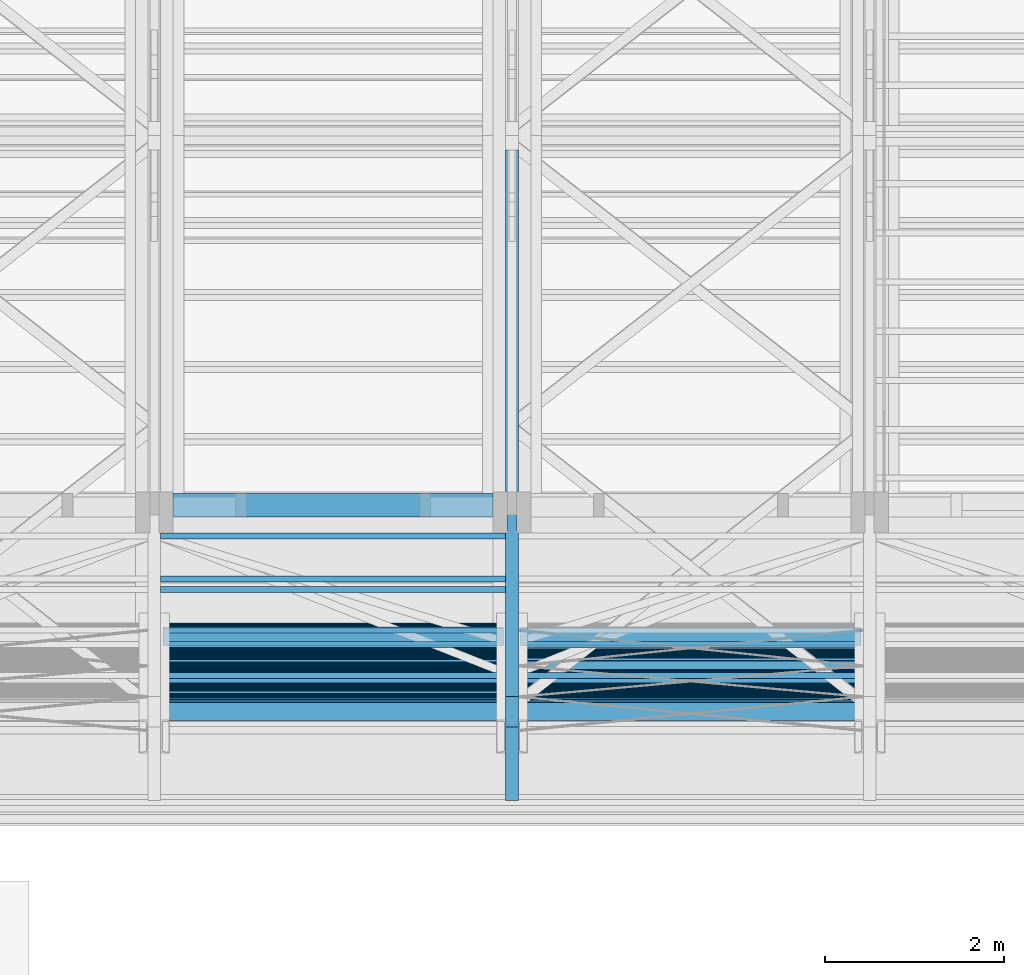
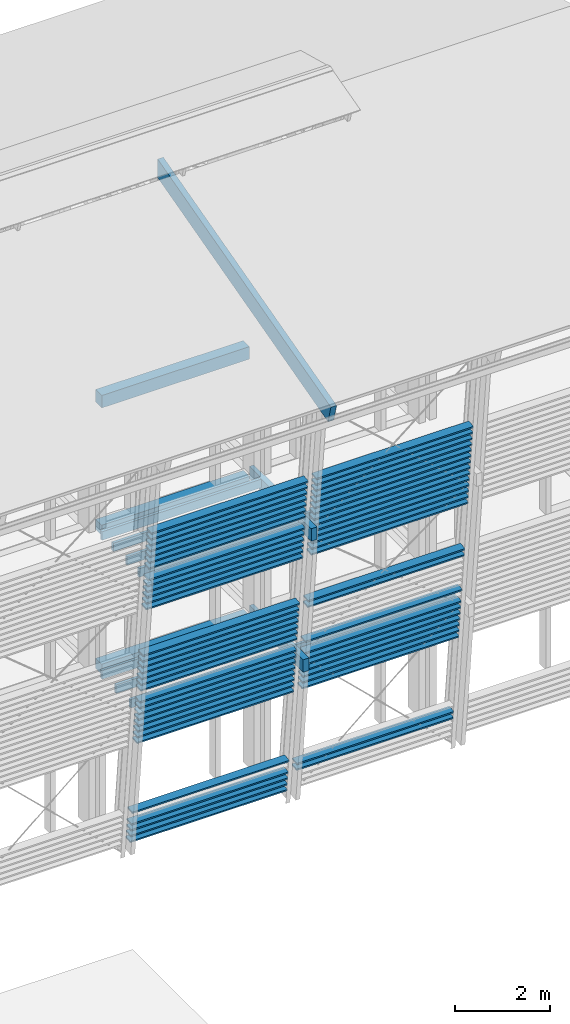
# One storey, part 19 of 48: 74 beams.
"""IFC2X3 building model written with IfcOpenShell, lengths in metres."""

from ifc_helpers import new_model, si_unit, direction, frame, origin_with_axes, place, context, subcontext, project, spatial, faceted_brep, material, element, save


model = new_model("IFC2X3")

# Units and contexts
model_context = context("Model", 3, precision=1e-06, world=origin_with_axes(), true_north=direction((0.0, 1.0, 0.0)))
body_context = subcontext(model_context, "Body", "Model", "MODEL_VIEW")
ifc_project = project(units=[si_unit("LENGTHUNIT", "METRE"), si_unit("AREAUNIT", "SQUARE_METRE"), si_unit("VOLUMEUNIT", "CUBIC_METRE"), si_unit("PLANEANGLEUNIT", "RADIAN")], contexts=[model_context])

# Site, building, storey
site_placement = place(None, origin_with_axes())
site = spatial("IfcSite", under=ifc_project, at=site_placement, CompositionType="ELEMENT")
building_placement = place(site_placement, origin_with_axes())
building = spatial("IfcBuilding", under=site, at=building_placement, Name="Building 1", CompositionType="ELEMENT")
storey_placement = place(building_placement, origin_with_axes())
storey = spatial("IfcBuildingStorey", under=building, at=storey_placement, Name="Storey 1", CompositionType="ELEMENT", Elevation=0.0)

# Beams
ifc_material_1 = material(Name="GL28h")
beam_1_placement = place(storey_placement, frame((61.5597437, -195.2446515, 7.699), z_axis=(0.0, 0.0, 1.0), x_axis=(1.0, 0.0, 0.0)))
element("IfcBeam", 1, at=beam_1_placement, inside=storey, material=ifc_material_1, Name="Solive", context=body_context, shape_type="Brep", body=[
    faceted_brep([(0.0, -0.035, -0.11), (0.0, -0.035, 0.11), (0.0, 0.035, 0.11), (0.0, 0.035, -0.11), (3.8599996, -0.035, 0.11), (3.8599996, 0.035, 0.11), (3.8599996, -0.035, -0.11), (3.8599996, 0.035, -0.11)], [[[0, 1, 2, 3]], [[2, 1, 4, 5]], [[1, 0, 6, 4]], [[0, 3, 7, 6]], [[3, 2, 5, 7]], [[7, 5, 4, 6]]]),
])
ifc_material_2 = material(Name="Moabi")
beam_2_placement = place(storey_placement, frame((65.3927441, -194.8097519, 1.0314097), z_axis=(0.0, 0.9945219, 0.1045285), x_axis=(-1.0, 0.0, 0.0)))
element("IfcBeam", 2, at=beam_2_placement, inside=storey, material=ifc_material_2, Name="garde corp", context=body_context, shape_type="Brep", body=[
    faceted_brep([(3.806, 0.02, -0.1), (3.806, -0.02, -0.1), (0.0, -0.02, -0.1), (0.0, 0.02, -0.1), (3.806, -0.02, 0.1), (0.0, -0.02, 0.1), (3.806, 0.02, 0.1), (0.0, 0.02, 0.1)], [[[0, 1, 2, 3]], [[1, 4, 5, 2]], [[4, 6, 7, 5]], [[6, 0, 3, 7]], [[1, 0, 6, 4]], [[7, 3, 2, 5]]]),
])
for number, where, z_axis, x_axis, name in (
    (3, (65.3927439, -195.177692, 4.5321268), (0.0, 0.9945219, 0.1045285), (-1.0, 0.0, 0.0), "garde corp"),
    (4, (61.3927439, -195.2278657, 5.0094973), (0.0, 0.9945219, 0.1045285), (-1.0, 0.0, 0.0), "garde corp"),
):
    element("IfcBeam", number, at=place(storey_placement, frame(where, z_axis=z_axis, x_axis=x_axis)), inside=storey, material=ifc_material_2, Name=name, context=body_context, shape_type="Brep", body=[
        faceted_brep([(3.8047069, 0.02, -0.1), (3.8047071, -0.02, -0.1), (0.0, -0.02, -0.1), (0.0, 0.02, -0.1), (3.8047069, -0.02, 0.1), (0.0, -0.02, 0.1), (3.8047071, 0.02, 0.1), (0.0, 0.02, 0.1)], [[[0, 1, 2, 3]], [[1, 4, 5, 2]], [[4, 6, 7, 5]], [[6, 0, 3, 7]], [[1, 0, 6, 4]], [[7, 3, 2, 5]]]),
    ])
beam_3_placement = place(storey_placement, frame((61.3927439, -195.0438956, 3.2591388), z_axis=(0.0, 0.9945219, 0.1045285), x_axis=(-1.0, 0.0, 0.0)))
element("IfcBeam", 5, at=beam_3_placement, inside=storey, material=ifc_material_2, Name="garde corp", context=body_context, shape_type="Brep", body=[
    faceted_brep([(3.8048051, 0.02, -0.1), (3.8048051, -0.02, -0.1), (0.0, -0.02, -0.1), (0.0, 0.02, -0.1), (3.8048051, -0.02, 0.1), (0.0, -0.02, 0.1), (3.8048051, 0.02, 0.1), (0.0, 0.02, 0.1)], [[[0, 1, 2, 3]], [[1, 4, 5, 2]], [[4, 6, 7, 5]], [[6, 0, 3, 7]], [[1, 0, 6, 4]], [[7, 3, 2, 5]]]),
])
for number, where, z_axis, x_axis, name in (
    (6, (61.3927441, -194.7763027, 0.7131627), (0.0, 0.9945219, 0.1045285), (-1.0, 0.0, 0.0), "garde corp"),
    (7, (61.3927441, -195.4285604, 6.9189793), (0.0, 0.9945219, 0.1045285), (-1.0, 0.0, 0.0), "garde corp"),
):
    element("IfcBeam", number, at=place(storey_placement, frame(where, z_axis=z_axis, x_axis=x_axis)), inside=storey, material=ifc_material_2, Name=name, context=body_context, shape_type="Brep", body=[
        faceted_brep([(3.806, 0.02, -0.1), (3.806, -0.02, -0.1), (0.0, -0.02, -0.1), (0.0, 0.02, -0.1), (3.806, -0.02, 0.1), (0.0, -0.02, 0.1), (3.806, 0.02, 0.1), (0.0, 0.02, 0.1)], [[[0, 1, 2, 3]], [[1, 4, 5, 2]], [[4, 6, 7, 5]], [[6, 0, 3, 7]], [[1, 0, 6, 4]], [[7, 3, 2, 5]]]),
    ])
beam_4_placement = place(storey_placement, frame((61.3927439, -195.2947639, 5.6459913), z_axis=(0.0, 0.9945219, 0.1045285), x_axis=(-1.0, 0.0, 0.0)))
element("IfcBeam", 8, at=beam_4_placement, inside=storey, material=ifc_material_2, Name="garde corp", context=body_context, shape_type="Brep", body=[
    faceted_brep([(3.8048055, 0.02, -0.1), (3.8048055, -0.02, -0.1), (0.0, -0.02, -0.1), (0.0, 0.02, -0.1), (3.8048055, -0.02, 0.1), (0.0, -0.02, 0.1), (3.8048055, 0.02, 0.1), (0.0, 0.02, 0.1)], [[[0, 1, 2, 3]], [[1, 4, 5, 2]], [[4, 6, 7, 5]], [[6, 0, 3, 7]], [[1, 0, 6, 4]], [[7, 3, 2, 5]]]),
])
beam_5_placement = place(storey_placement, frame((57.5597437, -195.2446515, 7.699), z_axis=(0.0, 0.0, 1.0), x_axis=(1.0, 0.0, 0.0)))
element("IfcBeam", 9, at=beam_5_placement, inside=storey, material=ifc_material_1, Name="Solive", context=body_context, shape_type="Brep", body=[
    faceted_brep([(0.0, -0.035, -0.11), (0.0, -0.035, 0.11), (0.0, 0.035, 0.11), (0.0, 0.035, -0.11), (3.8599996, -0.035, 0.11), (3.8599996, 0.035, 0.11), (3.8599996, -0.035, -0.11), (3.8599996, 0.035, -0.11)], [[[0, 1, 2, 3]], [[2, 1, 4, 5]], [[1, 0, 6, 4]], [[0, 3, 7, 6]], [[3, 2, 5, 7]], [[7, 5, 4, 6]]]),
])
beam_6_placement = place(storey_placement, frame((57.5597437, -193.6846515, 7.699), z_axis=(0.0, 0.0, 1.0), x_axis=(1.0, 0.0, 0.0)))
element("IfcBeam", 10, at=beam_6_placement, inside=storey, material=ifc_material_1, Name="Solive", context=body_context, shape_type="Brep", body=[
    faceted_brep([(3.86, 0.035, 0.11), (3.86, 0.035, -0.11), (0.0, 0.035, -0.11), (0.0, 0.035, 0.11), (3.86, -0.035, -0.11), (0.0, -0.035, -0.11), (3.86, -0.035, 0.11), (0.0, -0.035, 0.11)], [[[0, 1, 2, 3]], [[1, 4, 5, 2]], [[4, 6, 7, 5]], [[6, 0, 3, 7]], [[1, 0, 6, 4]], [[7, 3, 2, 5]]]),
])
for number, where, z_axis, x_axis, name in (
    (11, (65.3927441, -195.4620095, 7.2372263), (0.0, 0.9945219, 0.1045285), (-1.0, 0.0, 0.0), "garde corp"),
    (12, (61.3927441, -195.478734, 7.3963498), (0.0, 0.9945219, 0.1045285), (-1.0, 0.0, 0.0), "garde corp"),
):
    element("IfcBeam", number, at=place(storey_placement, frame(where, z_axis=z_axis, x_axis=x_axis)), inside=storey, material=ifc_material_2, Name=name, context=body_context, shape_type="Brep", body=[
        faceted_brep([(3.806, 0.02, -0.1), (3.806, -0.02, -0.1), (0.0, -0.02, -0.1), (0.0, 0.02, -0.1), (3.806, -0.02, 0.1), (0.0, -0.02, 0.1), (3.806, 0.02, 0.1), (0.0, 0.02, 0.1)], [[[0, 1, 2, 3]], [[1, 4, 5, 2]], [[4, 6, 7, 5]], [[6, 0, 3, 7]], [[1, 0, 6, 4]], [[7, 3, 2, 5]]]),
    ])
beam_7_placement = place(storey_placement, frame((61.4897437, -193.1896515, 4.089), z_axis=(0.0, 0.0, 1.0), x_axis=(0.0, -1.0, 0.0)))
element("IfcBeam", 13, at=beam_7_placement, inside=storey, material=ifc_material_1, Name="Sommier Coursive", context=body_context, shape_type="Brep", body=[
    faceted_brep([(0.0, 0.05, 0.16), (0.44, 0.05, 0.16), (0.44, 0.05, -0.16), (0.0, 0.05, -0.16), (0.44, 0.07, 0.16), (0.44, 0.07, -0.16), (0.0, -0.05, 0.16), (0.44, -0.05, 0.16), (0.44, -0.07, 0.16), (2.2900003, -0.07, 0.16), (2.2900003, 0.07, 0.16), (0.0, -0.05, -0.16), (0.44, -0.05, -0.16), (0.44, -0.07, -0.16), (2.2900003, 0.07, -0.16), (2.2900003, -0.07, -0.16)], [[[0, 1, 2, 3]], [[1, 4, 5, 2]], [[4, 1, 0, 6, 7, 8, 9, 10]], [[0, 3, 11, 6]], [[11, 12, 7, 6]], [[12, 13, 8, 7]], [[2, 5, 14, 15, 13, 12, 11, 3]], [[8, 13, 15, 9]], [[5, 4, 10, 14]], [[10, 9, 15, 14]]]),
])
for number, where, z_axis, x_axis, name in (
    (14, (65.3927441, -195.5289077, 7.8737203), (0.0, 0.9945219, 0.1045285), (-1.0, 0.0, 0.0), "garde corp"),
    (15, (65.3927437, -195.6459796, 8.9875849), (0.0, 0.9945219, 0.1045285), (-1.0, 0.0, 0.0), "garde corp"),
):
    element("IfcBeam", number, at=place(storey_placement, frame(where, z_axis=z_axis, x_axis=x_axis)), inside=storey, material=ifc_material_2, Name=name, context=body_context, shape_type="Brep", body=[
        faceted_brep([(3.806, 0.02, -0.1), (3.806, -0.02, -0.1), (0.0, -0.02, -0.1), (0.0, 0.02, -0.1), (3.806, -0.02, 0.1), (0.0, -0.02, 0.1), (3.806, 0.02, 0.1), (0.0, 0.02, 0.1)], [[[0, 1, 2, 3]], [[1, 4, 5, 2]], [[4, 6, 7, 5]], [[6, 0, 3, 7]], [[1, 0, 6, 4]], [[7, 3, 2, 5]]]),
    ])
beam_8_placement = place(storey_placement, frame((65.3927439, -195.2780394, 5.4868678), z_axis=(0.0, 0.9945219, 0.1045285), x_axis=(-1.0, 0.0, 0.0)))
element("IfcBeam", 16, at=beam_8_placement, inside=storey, material=ifc_material_2, Name="garde corp", context=body_context, shape_type="Brep", body=[
    faceted_brep([(3.8047069, 0.02, -0.1), (3.8047069, -0.02, -0.1), (0.0, -0.02, -0.1), (0.0, 0.02, -0.1), (3.8047069, -0.02, 0.1), (0.0, -0.02, 0.1), (3.8047071, 0.02, 0.1), (0.0, 0.02, 0.1)], [[[0, 1, 2, 3]], [[1, 4, 5, 2]], [[4, 6, 7, 5]], [[6, 0, 3, 7]], [[1, 0, 6, 4]], [[7, 3, 2, 5]]]),
])
for number, where, z_axis, x_axis, name in (
    (17, (61.3927441, -195.5958059, 8.5102144), (0.0, 0.9945219, 0.1045285), (-1.0, 0.0, 0.0), "garde corp"),
    (18, (61.3927441, -195.4954586, 7.5554733), (0.0, 0.9945219, 0.1045285), (-1.0, 0.0, 0.0), "garde corp"),
):
    element("IfcBeam", number, at=place(storey_placement, frame(where, z_axis=z_axis, x_axis=x_axis)), inside=storey, material=ifc_material_2, Name=name, context=body_context, shape_type="Brep", body=[
        faceted_brep([(3.806, 0.02, -0.1), (3.806, -0.02, -0.1), (0.0, -0.02, -0.1), (0.0, 0.02, -0.1), (3.806, -0.02, 0.1), (0.0, -0.02, 0.1), (3.806, 0.02, 0.1), (0.0, 0.02, 0.1)], [[[0, 1, 2, 3]], [[1, 4, 5, 2]], [[4, 6, 7, 5]], [[6, 0, 3, 7]], [[1, 0, 6, 4]], [[7, 3, 2, 5]]]),
    ])
for number, where, z_axis, x_axis in (
    (19, (57.5597437, -194.1646515, 7.699), (0.0, 0.0, 1.0), (1.0, 0.0, 0.0)),
    (20, (57.5597437, -194.7346515, 7.699), (0.0, 0.0, 1.0), (1.0, 0.0, 0.0)),
):
    element("IfcBeam", number, at=place(storey_placement, frame(where, z_axis=z_axis, x_axis=x_axis)), inside=storey, material=ifc_material_1, Name="Solive", context=body_context, shape_type="Brep", body=[
        faceted_brep([(3.86, 0.035, 0.11), (3.86, 0.035, -0.11), (0.0, 0.035, -0.11), (0.0, 0.035, 0.11), (3.86, -0.035, -0.11), (0.0, -0.035, -0.11), (3.86, -0.035, 0.11), (0.0, -0.035, 0.11)], [[[0, 1, 2, 3]], [[1, 4, 5, 2]], [[4, 6, 7, 5]], [[6, 0, 3, 7]], [[1, 0, 6, 4]], [[7, 3, 2, 5]]]),
    ])
beam_9_placement = place(storey_placement, frame((61.3927439, -195.2613148, 5.3277443), z_axis=(0.0, 0.9945219, 0.1045285), x_axis=(-1.0, 0.0, 0.0)))
element("IfcBeam", 21, at=beam_9_placement, inside=storey, material=ifc_material_2, Name="garde corp", context=body_context, shape_type="Brep", body=[
    faceted_brep([(3.8048055, 0.02, -0.1), (3.8048055, -0.02, -0.1), (0.0, -0.02, -0.1), (0.0, 0.02, -0.1), (3.8048055, -0.02, 0.1), (0.0, -0.02, 0.1), (3.8048055, 0.02, 0.1), (0.0, 0.02, 0.1)], [[[0, 1, 2, 3]], [[1, 4, 5, 2]], [[4, 6, 7, 5]], [[6, 0, 3, 7]], [[1, 0, 6, 4]], [[7, 3, 2, 5]]]),
])
beam_10_placement = place(storey_placement, frame((61.3927441, -194.7930273, 0.8722862), z_axis=(0.0, 0.9945219, 0.1045285), x_axis=(-1.0, 0.0, 0.0)))
element("IfcBeam", 22, at=beam_10_placement, inside=storey, material=ifc_material_2, Name="garde corp", context=body_context, shape_type="Brep", body=[
    faceted_brep([(3.806, 0.02, -0.1), (3.806, -0.02, -0.1), (0.0, -0.02, -0.1), (0.0, 0.02, -0.1), (3.806, -0.02, 0.1), (0.0, -0.02, 0.1), (3.806, 0.02, 0.1), (0.0, 0.02, 0.1)], [[[0, 1, 2, 3]], [[1, 4, 5, 2]], [[4, 6, 7, 5]], [[6, 0, 3, 7]], [[1, 0, 6, 4]], [[7, 3, 2, 5]]]),
])
beam_11_placement = place(storey_placement, frame((61.3927439, -195.1609675, 4.3730033), z_axis=(0.0, 0.9945219, 0.1045285), x_axis=(-1.0, 0.0, 0.0)))
element("IfcBeam", 23, at=beam_11_placement, inside=storey, material=ifc_material_2, Name="garde corp", context=body_context, shape_type="Brep", body=[
    faceted_brep([(3.8048051, 0.02, -0.1), (3.8048051, -0.02, -0.1), (0.0, -0.02, -0.1), (0.0, 0.02, -0.1), (3.8048051, -0.02, 0.1), (0.0, -0.02, 0.1), (3.8048051, 0.02, 0.1), (0.0, 0.02, 0.1)], [[[0, 1, 2, 3]], [[1, 4, 5, 2]], [[4, 6, 7, 5]], [[6, 0, 3, 7]], [[1, 0, 6, 4]], [[7, 3, 2, 5]]]),
])
for number, where, z_axis, x_axis, name in (
    (24, (65.3927441, -195.4452849, 7.0781028), (0.0, 0.9945219, 0.1045285), (-1.0, 0.0, 0.0), "garde corp"),
    (25, (61.3927441, -195.4452849, 7.0781028), (0.0, 0.9945219, 0.1045285), (-1.0, 0.0, 0.0), "garde corp"),
):
    element("IfcBeam", number, at=place(storey_placement, frame(where, z_axis=z_axis, x_axis=x_axis)), inside=storey, material=ifc_material_2, Name=name, context=body_context, shape_type="Brep", body=[
        faceted_brep([(3.806, 0.02, -0.1), (3.806, -0.02, -0.1), (0.0, -0.02, -0.1), (0.0, 0.02, -0.1), (3.806, -0.02, 0.1), (0.0, -0.02, 0.1), (3.806, 0.02, 0.1), (0.0, 0.02, 0.1)], [[[0, 1, 2, 3]], [[1, 4, 5, 2]], [[4, 6, 7, 5]], [[6, 0, 3, 7]], [[1, 0, 6, 4]], [[7, 3, 2, 5]]]),
    ])
beam_12_placement = place(storey_placement, frame((57.5597437, -194.898689, 4.139), z_axis=(0.0, 0.0, 1.0), x_axis=(1.0, 0.0, 0.0)))
element("IfcBeam", 26, at=beam_12_placement, inside=storey, material=ifc_material_1, Name="Solive", context=body_context, shape_type="Brep", body=[
    faceted_brep([(3.86, 0.035, 0.11), (3.86, 0.035, -0.11), (0.0, 0.035, -0.11), (0.0, 0.035, 0.11), (3.86, -0.035, -0.11), (0.0, -0.035, -0.11), (3.86, -0.035, 0.11), (0.0, -0.035, 0.11)], [[[0, 1, 2, 3]], [[1, 4, 5, 2]], [[4, 6, 7, 5]], [[6, 0, 3, 7]], [[1, 0, 6, 4]], [[7, 3, 2, 5]]]),
])
beam_13_placement = place(storey_placement, frame((61.4897437, -196.5806087, 11.197686), z_axis=(0.0, -0.258819, 0.9659258), x_axis=(0.0, 0.9659258, 0.258819)))
element("IfcBeam", 27, at=beam_13_placement, inside=storey, material=ifc_material_1, Name="Arbalétrier", context=body_context, shape_type="Brep", body=[
    faceted_brep([(7.4053414, 0.07, -0.23), (7.5285981, 0.07, 0.23), (7.5285981, -0.07, 0.23), (7.4053414, -0.07, -0.23), (0.0, 0.07, 0.23), (0.0, -0.07, 0.23), (0.0, 0.07, -0.23), (0.0, -0.07, -0.23)], [[[0, 1, 2, 3]], [[2, 1, 4, 5]], [[1, 0, 6, 4]], [[0, 3, 7, 6]], [[3, 2, 5, 7]], [[6, 7, 5, 4]]]),
])
beam_14_placement = place(storey_placement, frame((65.3927439, -195.0438956, 3.2591388), z_axis=(0.0, 0.9945219, 0.1045285), x_axis=(-1.0, 0.0, 0.0)))
element("IfcBeam", 28, at=beam_14_placement, inside=storey, material=ifc_material_2, Name="garde corp", context=body_context, shape_type="Brep", body=[
    faceted_brep([(3.8048051, 0.02, -0.1), (3.8048051, -0.02, -0.1), (0.0, -0.02, -0.1), (0.0, 0.02, -0.1), (3.8048051, -0.02, 0.1), (0.0, -0.02, 0.1), (3.8048051, 0.02, 0.1), (0.0, 0.02, 0.1)], [[[0, 1, 2, 3]], [[1, 4, 5, 2]], [[4, 6, 7, 5]], [[6, 0, 3, 7]], [[1, 0, 6, 4]], [[7, 3, 2, 5]]]),
])
for number, where, z_axis, x_axis, name in (
    (29, (61.3927437, -195.6125305, 8.6693379), (0.0, 0.9945219, 0.1045285), (-1.0, 0.0, 0.0), "garde corp"),
    (30, (65.3927441, -194.8264764, 1.1905332), (0.0, 0.9945219, 0.1045285), (-1.0, 0.0, 0.0), "garde corp"),
):
    element("IfcBeam", number, at=place(storey_placement, frame(where, z_axis=z_axis, x_axis=x_axis)), inside=storey, material=ifc_material_2, Name=name, context=body_context, shape_type="Brep", body=[
        faceted_brep([(3.806, 0.02, -0.1), (3.806, -0.02, -0.1), (0.0, -0.02, -0.1), (0.0, 0.02, -0.1), (3.806, -0.02, 0.1), (0.0, -0.02, 0.1), (3.806, 0.02, 0.1), (0.0, 0.02, 0.1)], [[[0, 1, 2, 3]], [[1, 4, 5, 2]], [[4, 6, 7, 5]], [[6, 0, 3, 7]], [[1, 0, 6, 4]], [[7, 3, 2, 5]]]),
    ])
beam_15_placement = place(storey_placement, frame((61.4897437, -193.1896515, 7.649), z_axis=(0.0, 0.0, 1.0), x_axis=(0.0, -1.0, 0.0)))
element("IfcBeam", 31, at=beam_15_placement, inside=storey, material=ifc_material_1, Name="Sommier Coursive", context=body_context, shape_type="Brep", body=[
    faceted_brep([(0.0, -0.05, -0.16), (0.44, -0.05, -0.16), (0.44, -0.05, 0.16), (0.0, -0.05, 0.16), (0.44, -0.07, -0.16), (0.44, -0.07, 0.16), (0.0, 0.05, 0.16), (0.0, 0.05, -0.16), (2.6285375, -0.07, 0.16), (2.6285375, 0.07, 0.16), (0.44, 0.07, 0.16), (0.44, 0.05, 0.16), (0.44, 0.05, -0.16), (0.44, 0.07, -0.16), (2.6285375, -0.07, -0.16), (2.6285375, 0.07, -0.16)], [[[0, 1, 2, 3]], [[1, 4, 5, 2]], [[0, 3, 6, 7]], [[3, 2, 5, 8, 9, 10, 11, 6]], [[6, 11, 12, 7]], [[11, 10, 13, 12]], [[5, 4, 14, 8]], [[1, 0, 7, 12, 13, 15, 14, 4]], [[13, 10, 9, 15]], [[9, 8, 14, 15]]]),
])
beam_16_placement = place(storey_placement, frame((65.3927437, -195.6125305, 8.6693379), z_axis=(0.0, 0.9945219, 0.1045285), x_axis=(-1.0, 0.0, 0.0)))
element("IfcBeam", 32, at=beam_16_placement, inside=storey, material=ifc_material_2, Name="garde corp", context=body_context, shape_type="Brep", body=[
    faceted_brep([(3.806, 0.02, -0.1), (3.806, -0.02, -0.1), (0.0, -0.02, -0.1), (0.0, 0.02, -0.1), (3.806, -0.02, 0.1), (0.0, -0.02, 0.1), (3.806, 0.02, 0.1), (0.0, 0.02, 0.1)], [[[0, 1, 2, 3]], [[1, 4, 5, 2]], [[4, 6, 7, 5]], [[6, 0, 3, 7]], [[1, 0, 6, 4]], [[7, 3, 2, 5]]]),
])
beam_17_placement = place(storey_placement, frame((65.3927439, -195.2947639, 5.6459913), z_axis=(0.0, 0.9945219, 0.1045285), x_axis=(-1.0, 0.0, 0.0)))
element("IfcBeam", 33, at=beam_17_placement, inside=storey, material=ifc_material_2, Name="garde corp", context=body_context, shape_type="Brep", body=[
    faceted_brep([(3.8048055, 0.02, -0.1), (3.8048055, -0.02, -0.1), (0.0, -0.02, -0.1), (0.0, 0.02, -0.1), (3.8048055, -0.02, 0.1), (0.0, -0.02, 0.1), (3.8048055, 0.02, 0.1), (0.0, 0.02, 0.1)], [[[0, 1, 2, 3]], [[1, 4, 5, 2]], [[4, 6, 7, 5]], [[6, 0, 3, 7]], [[1, 0, 6, 4]], [[7, 3, 2, 5]]]),
])
beam_18_placement = place(storey_placement, frame((65.3927439, -195.1275184, 4.0547563), z_axis=(0.0, 0.9945219, 0.1045285), x_axis=(-1.0, 0.0, 0.0)))
element("IfcBeam", 34, at=beam_18_placement, inside=storey, material=ifc_material_2, Name="garde corp", context=body_context, shape_type="Brep", body=[
    faceted_brep([(3.8048051, 0.02, -0.1), (3.8048051, -0.02, -0.1), (0.0, -0.02, -0.1), (0.0, 0.02, -0.1), (3.8048051, -0.02, 0.1), (0.0, -0.02, 0.1), (3.8048051, 0.02, 0.1), (0.0, 0.02, 0.1)], [[[0, 1, 2, 3]], [[1, 4, 5, 2]], [[4, 6, 7, 5]], [[6, 0, 3, 7]], [[1, 0, 6, 4]], [[7, 3, 2, 5]]]),
])
beam_19_placement = place(storey_placement, frame((57.6997437, -193.3396515, 4.085), z_axis=(0.0, 0.0, 1.0), x_axis=(1.0, 0.0, 0.0)))
element("IfcBeam", 35, at=beam_19_placement, inside=storey, material=ifc_material_1, Name="Buton", context=body_context, shape_type="Brep", body=[
    faceted_brep([(0.0, 0.13, 0.13), (0.0, -0.13, 0.13), (3.58, -0.13, 0.13), (3.58, 0.13, 0.13), (0.0, -0.13, -0.13), (3.58, -0.13, -0.13), (0.0, 0.13, -0.13), (3.58, 0.13, -0.13)], [[[0, 1, 2, 3]], [[2, 1, 4, 5]], [[1, 0, 6, 4]], [[5, 4, 6, 7]], [[0, 3, 7, 6]], [[3, 2, 5, 7]]]),
])
beam_20_placement = place(storey_placement, frame((65.3927439, -195.0940693, 3.7365093), z_axis=(0.0, 0.9945219, 0.1045285), x_axis=(-1.0, 0.0, 0.0)))
element("IfcBeam", 36, at=beam_20_placement, inside=storey, material=ifc_material_2, Name="garde corp", context=body_context, shape_type="Brep", body=[
    faceted_brep([(3.8047069, 0.02, -0.1), (3.8047071, -0.02, -0.1), (0.0, -0.02, -0.1), (0.0, 0.02, -0.1), (3.8047071, -0.02, 0.1), (0.0, -0.02, 0.1), (3.8047071, 0.02, 0.1), (0.0, 0.02, 0.1)], [[[0, 1, 2, 3]], [[1, 4, 5, 2]], [[4, 6, 7, 5]], [[6, 0, 3, 7]], [[1, 0, 6, 4]], [[7, 3, 2, 5]]]),
])
beam_21_placement = place(storey_placement, frame((57.6997437, -193.3396515, 10.94), z_axis=(0.0, 0.0, 1.0), x_axis=(1.0, 0.0, 0.0)))
element("IfcBeam", 37, at=beam_21_placement, inside=storey, material=ifc_material_1, Name="Buton", context=body_context, shape_type="Brep", body=[
    faceted_brep([(0.0, 0.13, 0.16), (0.0, -0.13, 0.16), (3.58, -0.13, 0.16), (3.58, 0.13, 0.16), (0.0, -0.13, -0.16), (3.58, -0.13, -0.16), (0.0, 0.13, -0.16), (3.58, 0.13, -0.16)], [[[0, 1, 2, 3]], [[2, 1, 4, 5]], [[1, 0, 6, 4]], [[5, 4, 6, 7]], [[3, 2, 5, 7]], [[0, 3, 7, 6]]]),
])
beam_22_placement = place(storey_placement, frame((57.6997437, -193.3396515, 7.645), z_axis=(0.0, 0.0, 1.0), x_axis=(1.0, 0.0, 0.0)))
element("IfcBeam", 38, at=beam_22_placement, inside=storey, material=ifc_material_1, Name="Buton", context=body_context, shape_type="Brep", body=[
    faceted_brep([(0.0, 0.13, 0.13), (0.0, -0.13, 0.13), (3.58, -0.13, 0.13), (3.58, 0.13, 0.13), (0.0, -0.13, -0.13), (3.58, -0.13, -0.13), (0.0, 0.13, -0.13), (3.58, 0.13, -0.13)], [[[0, 1, 2, 3]], [[2, 1, 4, 5]], [[1, 0, 6, 4]], [[5, 4, 6, 7]], [[0, 3, 7, 6]], [[3, 2, 5, 7]]]),
])
beam_23_placement = place(storey_placement, frame((65.3927441, -195.5623568, 8.1919674), z_axis=(0.0, 0.9945219, 0.1045285), x_axis=(-1.0, 0.0, 0.0)))
element("IfcBeam", 39, at=beam_23_placement, inside=storey, material=ifc_material_2, Name="garde corp", context=body_context, shape_type="Brep", body=[
    faceted_brep([(3.806, 0.02, -0.1), (3.806, -0.02, -0.1), (0.0, -0.02, -0.1), (0.0, 0.02, -0.1), (3.806, -0.02, 0.1), (0.0, -0.02, 0.1), (3.806, 0.02, 0.1), (0.0, 0.02, 0.1)], [[[0, 1, 2, 3]], [[1, 4, 5, 2]], [[4, 6, 7, 5]], [[6, 0, 3, 7]], [[1, 0, 6, 4]], [[7, 3, 2, 5]]]),
])
beam_24_placement = place(storey_placement, frame((61.3927439, -195.0606202, 3.4182623), z_axis=(0.0, 0.9945219, 0.1045285), x_axis=(-1.0, 0.0, 0.0)))
element("IfcBeam", 40, at=beam_24_placement, inside=storey, material=ifc_material_2, Name="garde corp", context=body_context, shape_type="Brep", body=[
    faceted_brep([(3.8047069, 0.02, -0.1), (3.8047069, -0.02, -0.1), (0.0, -0.02, -0.1), (0.0, 0.02, -0.1), (3.8047069, -0.02, 0.1), (0.0, -0.02, 0.1), (3.8047071, 0.02, 0.1), (0.0, 0.02, 0.1)], [[[0, 1, 2, 3]], [[1, 4, 5, 2]], [[4, 6, 7, 5]], [[6, 0, 3, 7]], [[1, 0, 6, 4]], [[7, 3, 2, 5]]]),
])
beam_25_placement = place(storey_placement, frame((61.3927439, -195.1442429, 4.2138798), z_axis=(0.0, 0.9945219, 0.1045285), x_axis=(-1.0, 0.0, 0.0)))
element("IfcBeam", 41, at=beam_25_placement, inside=storey, material=ifc_material_2, Name="garde corp", context=body_context, shape_type="Brep", body=[
    faceted_brep([(3.8048051, 0.02, -0.1), (3.8048051, -0.02, -0.1), (0.0, -0.02, -0.1), (0.0, 0.02, -0.1), (3.8048051, -0.02, 0.1), (0.0, -0.02, 0.1), (3.8048051, 0.02, 0.1), (0.0, 0.02, 0.1)], [[[0, 1, 2, 3]], [[1, 4, 5, 2]], [[4, 6, 7, 5]], [[6, 0, 3, 7]], [[1, 0, 6, 4]], [[7, 3, 2, 5]]]),
])
for number, where, z_axis, x_axis, name in (
    (42, (65.3927441, -195.629255, 8.8284614), (0.0, 0.9945219, 0.1045285), (-1.0, 0.0, 0.0), "garde corp"),
    (43, (65.3927441, -195.5958059, 8.5102144), (0.0, 0.9945219, 0.1045285), (-1.0, 0.0, 0.0), "garde corp"),
):
    element("IfcBeam", number, at=place(storey_placement, frame(where, z_axis=z_axis, x_axis=x_axis)), inside=storey, material=ifc_material_2, Name=name, context=body_context, shape_type="Brep", body=[
        faceted_brep([(3.806, 0.02, -0.1), (3.806, -0.02, -0.1), (0.0, -0.02, -0.1), (0.0, 0.02, -0.1), (3.806, -0.02, 0.1), (0.0, -0.02, 0.1), (3.806, 0.02, 0.1), (0.0, 0.02, 0.1)], [[[0, 1, 2, 3]], [[1, 4, 5, 2]], [[4, 6, 7, 5]], [[6, 0, 3, 7]], [[1, 0, 6, 4]], [[7, 3, 2, 5]]]),
    ])
beam_26_placement = place(storey_placement, frame((57.5597437, -194.2816702, 4.139), z_axis=(0.0, 0.0, 1.0), x_axis=(1.0, 0.0, 0.0)))
element("IfcBeam", 44, at=beam_26_placement, inside=storey, material=ifc_material_1, Name="Solive", context=body_context, shape_type="Brep", body=[
    faceted_brep([(3.86, 0.035, 0.11), (3.86, 0.035, -0.11), (0.0, 0.035, -0.11), (0.0, 0.035, 0.11), (3.86, -0.035, -0.11), (0.0, -0.035, -0.11), (3.86, -0.035, 0.11), (0.0, -0.035, 0.11)], [[[0, 1, 2, 3]], [[1, 4, 5, 2]], [[4, 6, 7, 5]], [[6, 0, 3, 7]], [[1, 0, 6, 4]], [[7, 3, 2, 5]]]),
])
beam_27_placement = place(storey_placement, frame((65.3927439, -195.0606202, 3.4182623), z_axis=(0.0, 0.9945219, 0.1045285), x_axis=(-1.0, 0.0, 0.0)))
element("IfcBeam", 45, at=beam_27_placement, inside=storey, material=ifc_material_2, Name="garde corp", context=body_context, shape_type="Brep", body=[
    faceted_brep([(3.8047069, 0.02, -0.1), (3.8047069, -0.02, -0.1), (0.0, -0.02, -0.1), (0.0, 0.02, -0.1), (3.8047069, -0.02, 0.1), (0.0, -0.02, 0.1), (3.8047071, 0.02, 0.1), (0.0, 0.02, 0.1)], [[[0, 1, 2, 3]], [[1, 4, 5, 2]], [[4, 6, 7, 5]], [[6, 0, 3, 7]], [[1, 0, 6, 4]], [[7, 3, 2, 5]]]),
])
beam_28_placement = place(storey_placement, frame((61.3927439, -195.2111412, 4.8503738), z_axis=(0.0, 0.9945219, 0.1045285), x_axis=(-1.0, 0.0, 0.0)))
element("IfcBeam", 46, at=beam_28_placement, inside=storey, material=ifc_material_2, Name="garde corp", context=body_context, shape_type="Brep", body=[
    faceted_brep([(3.8048055, 0.02, -0.1), (3.8048055, -0.02, -0.1), (0.0, -0.02, -0.1), (0.0, 0.02, -0.1), (3.8048055, -0.02, 0.1), (0.0, -0.02, 0.1), (3.8048055, 0.02, 0.1), (0.0, 0.02, 0.1)], [[[0, 1, 2, 3]], [[1, 4, 5, 2]], [[4, 6, 7, 5]], [[6, 0, 3, 7]], [[1, 0, 6, 4]], [[7, 3, 2, 5]]]),
])
beam_29_placement = place(storey_placement, frame((65.3927441, -195.4285604, 6.9189793), z_axis=(0.0, 0.9945219, 0.1045285), x_axis=(-1.0, 0.0, 0.0)))
element("IfcBeam", 47, at=beam_29_placement, inside=storey, material=ifc_material_2, Name="garde corp", context=body_context, shape_type="Brep", body=[
    faceted_brep([(3.806, 0.02, -0.1), (3.806, -0.02, -0.1), (0.0, -0.02, -0.1), (0.0, 0.02, -0.1), (3.806, -0.02, 0.1), (0.0, -0.02, 0.1), (3.806, 0.02, 0.1), (0.0, 0.02, 0.1)], [[[0, 1, 2, 3]], [[1, 4, 5, 2]], [[4, 6, 7, 5]], [[6, 0, 3, 7]], [[1, 0, 6, 4]], [[7, 3, 2, 5]]]),
])
for number, where, z_axis, x_axis in (
    (48, (61.5597437, -194.898689, 4.139), (0.0, 0.0, 1.0), (1.0, 0.0, 0.0)),
    (49, (57.5597437, -193.6846515, 4.139), (0.0, 0.0, 1.0), (1.0, 0.0, 0.0)),
):
    element("IfcBeam", number, at=place(storey_placement, frame(where, z_axis=z_axis, x_axis=x_axis)), inside=storey, material=ifc_material_1, Name="Solive", context=body_context, shape_type="Brep", body=[
        faceted_brep([(3.86, 0.035, 0.11), (3.86, 0.035, -0.11), (0.0, 0.035, -0.11), (0.0, 0.035, 0.11), (3.86, -0.035, -0.11), (0.0, -0.035, -0.11), (3.86, -0.035, 0.11), (0.0, -0.035, 0.11)], [[[0, 1, 2, 3]], [[1, 4, 5, 2]], [[4, 6, 7, 5]], [[6, 0, 3, 7]], [[1, 0, 6, 4]], [[7, 3, 2, 5]]]),
    ])
for number, where, z_axis, x_axis, name in (
    (50, (61.3927439, -195.1944166, 4.6912503), (0.0, 0.9945219, 0.1045285), (-1.0, 0.0, 0.0), "garde corp"),
    (51, (61.3927439, -195.1107938, 3.8956328), (0.0, 0.9945219, 0.1045285), (-1.0, 0.0, 0.0), "garde corp"),
):
    element("IfcBeam", number, at=place(storey_placement, frame(where, z_axis=z_axis, x_axis=x_axis)), inside=storey, material=ifc_material_2, Name=name, context=body_context, shape_type="Brep", body=[
        faceted_brep([(3.8047069, 0.02, -0.1), (3.8047071, -0.02, -0.1), (0.0, -0.02, -0.1), (0.0, 0.02, -0.1), (3.8047071, -0.02, 0.1), (0.0, -0.02, 0.1), (3.8047071, 0.02, 0.1), (0.0, 0.02, 0.1)], [[[0, 1, 2, 3]], [[1, 4, 5, 2]], [[4, 6, 7, 5]], [[6, 0, 3, 7]], [[1, 0, 6, 4]], [[7, 3, 2, 5]]]),
    ])
beam_30_placement = place(storey_placement, frame((61.3927441, -194.843201, 1.3496567), z_axis=(0.0, 0.9945219, 0.1045285), x_axis=(-1.0, 0.0, 0.0)))
element("IfcBeam", 52, at=beam_30_placement, inside=storey, material=ifc_material_2, Name="garde corp", context=body_context, shape_type="Brep", body=[
    faceted_brep([(3.806, 0.02, -0.1), (3.806, -0.02, -0.1), (0.0, -0.02, -0.1), (0.0, 0.02, -0.1), (3.806, -0.02, 0.1), (0.0, -0.02, 0.1), (3.806, 0.02, 0.1), (0.0, 0.02, 0.1)], [[[0, 1, 2, 3]], [[1, 4, 5, 2]], [[4, 6, 7, 5]], [[6, 0, 3, 7]], [[1, 0, 6, 4]], [[7, 3, 2, 5]]]),
])
beam_31_placement = place(storey_placement, frame((61.3927439, -195.0773447, 3.5773858), z_axis=(0.0, 0.9945219, 0.1045285), x_axis=(-1.0, 0.0, 0.0)))
element("IfcBeam", 53, at=beam_31_placement, inside=storey, material=ifc_material_2, Name="garde corp", context=body_context, shape_type="Brep", body=[
    faceted_brep([(3.8047071, 0.02, -0.1), (3.8047071, -0.02, -0.1), (0.0, -0.02, -0.1), (0.0, 0.02, -0.1), (3.8047071, -0.02, 0.1), (0.0, -0.02, 0.1), (3.8047071, 0.02, 0.1), (0.0, 0.02, 0.1)], [[[0, 1, 2, 3]], [[1, 4, 5, 2]], [[4, 6, 7, 5]], [[6, 0, 3, 7]], [[1, 0, 6, 4]], [[7, 3, 2, 5]]]),
])
beam_32_placement = place(storey_placement, frame((61.3927439, -195.2445903, 5.1686208), z_axis=(0.0, 0.9945219, 0.1045285), x_axis=(-1.0, 0.0, 0.0)))
element("IfcBeam", 54, at=beam_32_placement, inside=storey, material=ifc_material_2, Name="garde corp", context=body_context, shape_type="Brep", body=[
    faceted_brep([(3.8048055, 0.02, -0.1), (3.8048055, -0.02, -0.1), (0.0, -0.02, -0.1), (0.0, 0.02, -0.1), (3.8048055, -0.02, 0.1), (0.0, -0.02, 0.1), (3.8048055, 0.02, 0.1), (0.0, 0.02, 0.1)], [[[0, 1, 2, 3]], [[1, 4, 5, 2]], [[4, 6, 7, 5]], [[6, 0, 3, 7]], [[1, 0, 6, 4]], [[7, 3, 2, 5]]]),
])
for number, where, z_axis, x_axis, name in (
    (55, (61.3927441, -195.5121831, 7.7145968), (0.0, 0.9945219, 0.1045285), (-1.0, 0.0, 0.0), "garde corp"),
    (56, (61.3927441, -195.5790813, 8.3510909), (0.0, 0.9945219, 0.1045285), (-1.0, 0.0, 0.0), "garde corp"),
    (57, (61.3927441, -194.7595782, 0.5540392), (0.0, 0.9945219, 0.1045285), (-1.0, 0.0, 0.0), "garde corp"),
    (58, (65.3927441, -195.4954586, 7.5554733), (0.0, 0.9945219, 0.1045285), (-1.0, 0.0, 0.0), "garde corp"),
):
    element("IfcBeam", number, at=place(storey_placement, frame(where, z_axis=z_axis, x_axis=x_axis)), inside=storey, material=ifc_material_2, Name=name, context=body_context, shape_type="Brep", body=[
        faceted_brep([(3.806, 0.02, -0.1), (3.806, -0.02, -0.1), (0.0, -0.02, -0.1), (0.0, 0.02, -0.1), (3.806, -0.02, 0.1), (0.0, -0.02, 0.1), (3.806, 0.02, 0.1), (0.0, 0.02, 0.1)], [[[0, 1, 2, 3]], [[1, 4, 5, 2]], [[4, 6, 7, 5]], [[6, 0, 3, 7]], [[1, 0, 6, 4]], [[7, 3, 2, 5]]]),
    ])
beam_33_placement = place(storey_placement, frame((61.3927439, -195.0940693, 3.7365093), z_axis=(0.0, 0.9945219, 0.1045285), x_axis=(-1.0, 0.0, 0.0)))
element("IfcBeam", 59, at=beam_33_placement, inside=storey, material=ifc_material_2, Name="garde corp", context=body_context, shape_type="Brep", body=[
    faceted_brep([(3.8047069, 0.02, -0.1), (3.8047071, -0.02, -0.1), (0.0, -0.02, -0.1), (0.0, 0.02, -0.1), (3.8047071, -0.02, 0.1), (0.0, -0.02, 0.1), (3.8047071, 0.02, 0.1), (0.0, 0.02, 0.1)], [[[0, 1, 2, 3]], [[1, 4, 5, 2]], [[4, 6, 7, 5]], [[6, 0, 3, 7]], [[1, 0, 6, 4]], [[7, 3, 2, 5]]]),
])
for number, where, z_axis, x_axis, name in (
    (60, (61.3927437, -195.5456322, 8.0328439), (0.0, 0.9945219, 0.1045285), (-1.0, 0.0, 0.0), "garde corp"),
    (61, (61.3927441, -195.4620095, 7.2372263), (0.0, 0.9945219, 0.1045285), (-1.0, 0.0, 0.0), "garde corp"),
    (62, (65.3927437, -195.5456322, 8.0328439), (0.0, 0.9945219, 0.1045285), (-1.0, 0.0, 0.0), "garde corp"),
    (63, (61.3927437, -195.6459796, 8.9875849), (0.0, 0.9945219, 0.1045285), (-1.0, 0.0, 0.0), "garde corp"),
    (64, (65.3927441, -195.5121831, 7.7145968), (0.0, 0.9945219, 0.1045285), (-1.0, 0.0, 0.0), "garde corp"),
    (65, (65.3927441, -195.478734, 7.3963498), (0.0, 0.9945219, 0.1045285), (-1.0, 0.0, 0.0), "garde corp"),
    (66, (61.3927441, -194.8097519, 1.0314097), (0.0, 0.9945219, 0.1045285), (-1.0, 0.0, 0.0), "garde corp"),
    (67, (61.3927441, -195.629255, 8.8284614), (0.0, 0.9945219, 0.1045285), (-1.0, 0.0, 0.0), "garde corp"),
):
    element("IfcBeam", number, at=place(storey_placement, frame(where, z_axis=z_axis, x_axis=x_axis)), inside=storey, material=ifc_material_2, Name=name, context=body_context, shape_type="Brep", body=[
        faceted_brep([(3.806, 0.02, -0.1), (3.806, -0.02, -0.1), (0.0, -0.02, -0.1), (0.0, 0.02, -0.1), (3.806, -0.02, 0.1), (0.0, -0.02, 0.1), (3.806, 0.02, 0.1), (0.0, 0.02, 0.1)], [[[0, 1, 2, 3]], [[1, 4, 5, 2]], [[4, 6, 7, 5]], [[6, 0, 3, 7]], [[1, 0, 6, 4]], [[7, 3, 2, 5]]]),
    ])
beam_34_placement = place(storey_placement, frame((61.3927439, -195.2780394, 5.4868678), z_axis=(0.0, 0.9945219, 0.1045285), x_axis=(-1.0, 0.0, 0.0)))
element("IfcBeam", 68, at=beam_34_placement, inside=storey, material=ifc_material_2, Name="garde corp", context=body_context, shape_type="Brep", body=[
    faceted_brep([(3.8047069, 0.02, -0.1), (3.8047069, -0.02, -0.1), (0.0, -0.02, -0.1), (0.0, 0.02, -0.1), (3.8047069, -0.02, 0.1), (0.0, -0.02, 0.1), (3.8047071, 0.02, 0.1), (0.0, 0.02, 0.1)], [[[0, 1, 2, 3]], [[1, 4, 5, 2]], [[4, 6, 7, 5]], [[6, 0, 3, 7]], [[1, 0, 6, 4]], [[7, 3, 2, 5]]]),
])
beam_35_placement = place(storey_placement, frame((61.3927441, -195.5623568, 8.1919674), z_axis=(0.0, 0.9945219, 0.1045285), x_axis=(-1.0, 0.0, 0.0)))
element("IfcBeam", 69, at=beam_35_placement, inside=storey, material=ifc_material_2, Name="garde corp", context=body_context, shape_type="Brep", body=[
    faceted_brep([(3.806, 0.02, -0.1), (3.806, -0.02, -0.1), (0.0, -0.02, -0.1), (0.0, 0.02, -0.1), (3.806, -0.02, 0.1), (0.0, -0.02, 0.1), (3.806, 0.02, 0.1), (0.0, 0.02, 0.1)], [[[0, 1, 2, 3]], [[1, 4, 5, 2]], [[4, 6, 7, 5]], [[6, 0, 3, 7]], [[1, 0, 6, 4]], [[7, 3, 2, 5]]]),
])
beam_36_placement = place(storey_placement, frame((61.3927439, -195.1275184, 4.0547563), z_axis=(0.0, 0.9945219, 0.1045285), x_axis=(-1.0, 0.0, 0.0)))
element("IfcBeam", 70, at=beam_36_placement, inside=storey, material=ifc_material_2, Name="garde corp", context=body_context, shape_type="Brep", body=[
    faceted_brep([(3.8048051, 0.02, -0.1), (3.8048051, -0.02, -0.1), (0.0, -0.02, -0.1), (0.0, 0.02, -0.1), (3.8048051, -0.02, 0.1), (0.0, -0.02, 0.1), (3.8048051, 0.02, 0.1), (0.0, 0.02, 0.1)], [[[0, 1, 2, 3]], [[1, 4, 5, 2]], [[4, 6, 7, 5]], [[6, 0, 3, 7]], [[1, 0, 6, 4]], [[7, 3, 2, 5]]]),
])
beam_37_placement = place(storey_placement, frame((65.3927441, -195.5790813, 8.3510909), z_axis=(0.0, 0.9945219, 0.1045285), x_axis=(-1.0, 0.0, 0.0)))
element("IfcBeam", 71, at=beam_37_placement, inside=storey, material=ifc_material_2, Name="garde corp", context=body_context, shape_type="Brep", body=[
    faceted_brep([(3.806, 0.02, -0.1), (3.806, -0.02, -0.1), (0.0, -0.02, -0.1), (0.0, 0.02, -0.1), (3.806, -0.02, 0.1), (0.0, -0.02, 0.1), (3.806, 0.02, 0.1), (0.0, 0.02, 0.1)], [[[0, 1, 2, 3]], [[1, 4, 5, 2]], [[4, 6, 7, 5]], [[6, 0, 3, 7]], [[1, 0, 6, 4]], [[7, 3, 2, 5]]]),
])
beam_38_placement = place(storey_placement, frame((65.3927439, -195.1107938, 3.8956328), z_axis=(0.0, 0.9945219, 0.1045285), x_axis=(-1.0, 0.0, 0.0)))
element("IfcBeam", 72, at=beam_38_placement, inside=storey, material=ifc_material_2, Name="garde corp", context=body_context, shape_type="Brep", body=[
    faceted_brep([(3.8047069, 0.02, -0.1), (3.8047071, -0.02, -0.1), (0.0, -0.02, -0.1), (0.0, 0.02, -0.1), (3.8047071, -0.02, 0.1), (0.0, -0.02, 0.1), (3.8047071, 0.02, 0.1), (0.0, 0.02, 0.1)], [[[0, 1, 2, 3]], [[1, 4, 5, 2]], [[4, 6, 7, 5]], [[6, 0, 3, 7]], [[1, 0, 6, 4]], [[7, 3, 2, 5]]]),
])
beam_39_placement = place(storey_placement, frame((65.3927439, -195.1442429, 4.2138798), z_axis=(0.0, 0.9945219, 0.1045285), x_axis=(-1.0, 0.0, 0.0)))
element("IfcBeam", 73, at=beam_39_placement, inside=storey, material=ifc_material_2, Name="garde corp", context=body_context, shape_type="Brep", body=[
    faceted_brep([(3.8048051, 0.02, -0.1), (3.8048051, -0.02, -0.1), (0.0, -0.02, -0.1), (0.0, 0.02, -0.1), (3.8048051, -0.02, 0.1), (0.0, -0.02, 0.1), (3.8048051, 0.02, 0.1), (0.0, 0.02, 0.1)], [[[0, 1, 2, 3]], [[1, 4, 5, 2]], [[4, 6, 7, 5]], [[6, 0, 3, 7]], [[1, 0, 6, 4]], [[7, 3, 2, 5]]]),
])
beam_40_placement = place(storey_placement, frame((65.3927439, -195.0773447, 3.5773858), z_axis=(0.0, 0.9945219, 0.1045285), x_axis=(-1.0, 0.0, 0.0)))
element("IfcBeam", 74, at=beam_40_placement, inside=storey, material=ifc_material_2, Name="garde corp", context=body_context, shape_type="Brep", body=[
    faceted_brep([(3.8047071, 0.02, -0.1), (3.8047071, -0.02, -0.1), (0.0, -0.02, -0.1), (0.0, 0.02, -0.1), (3.8047071, -0.02, 0.1), (0.0, -0.02, 0.1), (3.8047071, 0.02, 0.1), (0.0, 0.02, 0.1)], [[[0, 1, 2, 3]], [[1, 4, 5, 2]], [[4, 6, 7, 5]], [[6, 0, 3, 7]], [[1, 0, 6, 4]], [[7, 3, 2, 5]]]),
])

save(model, "model.ifc")
